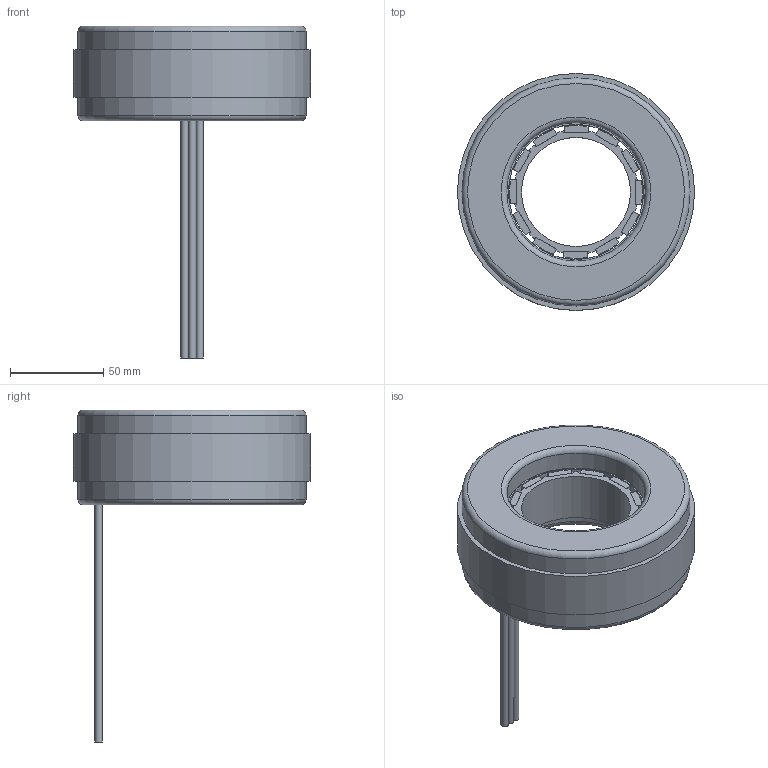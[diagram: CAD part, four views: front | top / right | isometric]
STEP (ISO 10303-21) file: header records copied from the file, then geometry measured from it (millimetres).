
FILE_DESCRIPTION(/* description */ ('TBD'),/* implementation_level */ '2;1');
FILE_NAME(/* name */ 'C:\CAD_Work\Designs\EMN\EMN-Unrestricted\New Ulm\STEP FILES\K127100-XX1.stp',/* time_stamp */ '2015-04-09T07:45:47-05:00',/* author */ ('ALA4428'),/* organization */ (''),/* preprocessor_version */ 'ST-DEVELOPER v15.2',/* originating_system */ 'Autodesk Inventor 2014',/* authorisation */ '');
FILE_SCHEMA (('AUTOMOTIVE_DESIGN { 1 0 10303 214 3 1 1 }'));
Products named in the file (17): W127100-XX1; 127100-XX1; 10169014; 10551016; 10551016_1; 10551016_2; 10551016_3; 10551016_4; 10551016_5; 10551016_6; 10551016_7; 10551016_8; 10551016_9; 10551016_10; 10551016_11; 10166004; K127XXX-XXX
Bounding box: 127 x 127 x 177.8 mm (x, y, z)
Volume: 437993.8 mm3; surface area: 75160.9 mm2
Topology: 14 solids, 14 shells, 146 faces, 327 edges, 214 vertices
Faces by surface type: plane 107, cylinder 35, torus 4
Full cylindrical faces by diameter (mm): 4 x2, 58.395 x1, 72.365 x1, 74.17 x2, 122.17 x2, 127 x1
Entity records: 4442 total; most frequent: DIRECTION 748, CARTESIAN_POINT 709, ORIENTED_EDGE 636, EDGE_CURVE 316, AXIS2_PLACEMENT_3D 253, LINE 242, VECTOR 242, VERTEX_POINT 214
